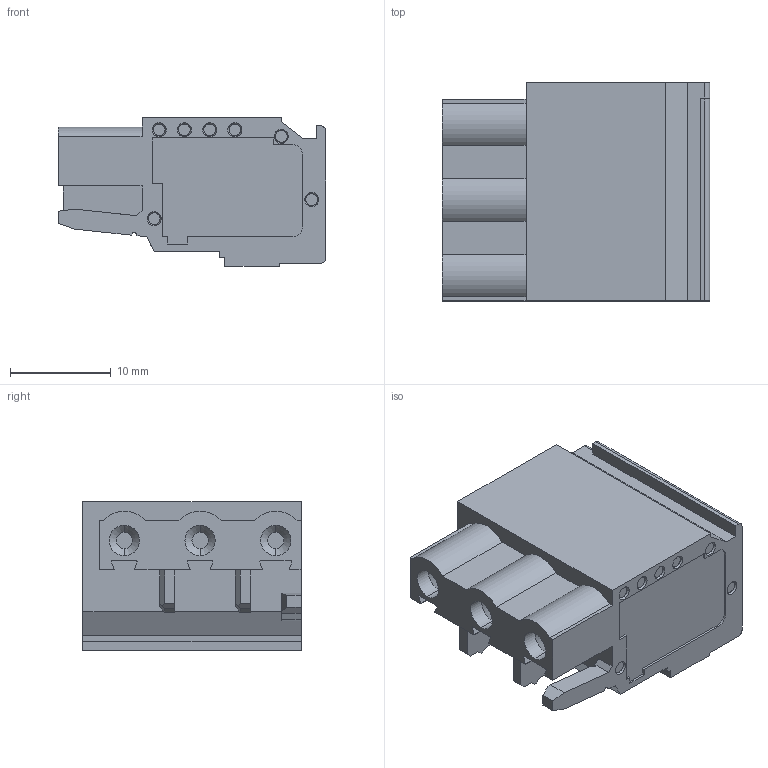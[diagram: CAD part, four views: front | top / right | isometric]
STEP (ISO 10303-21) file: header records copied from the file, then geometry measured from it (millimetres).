
FILE_DESCRIPTION((''),'2;1');
FILE_NAME('3','2019-05-06T',('zhenbing.lai'),(''),'CREO PARAMETRIC BY PTC INC, 2016260','CREO PARAMETRIC BY PTC INC, 2016260','');
FILE_SCHEMA(('CONFIG_CONTROL_DESIGN'));
Length unit declared in the file: millimetre
Products named in the file (1): 3
Bounding box: 26.5 x 21.6 x 14.7 mm (x, y, z)
Volume: 5905.4 mm3; surface area: 2837.8 mm2
Topology: 1 solids, 1 shells, 350 faces, 901 edges, 578 vertices
Faces by surface type: plane 202, cylinder 75, cone 40, torus 17, bspline 12, sphere 4
Entity records: 11178 total; most frequent: CARTESIAN_POINT 2585, ORIENTED_EDGE 1794, DIRECTION 1739, EDGE_CURVE 897, VECTOR 621, LINE 621, VERTEX_POINT 578, AXIS2_PLACEMENT_3D 559
